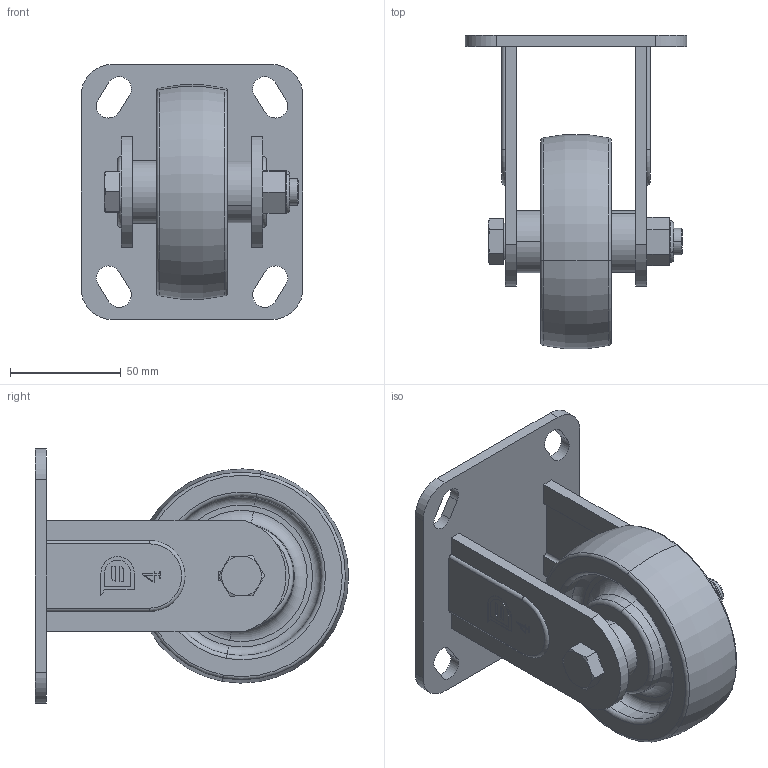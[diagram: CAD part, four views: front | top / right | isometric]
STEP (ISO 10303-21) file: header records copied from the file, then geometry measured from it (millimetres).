
FILE_DESCRIPTION (( 'STEP AP214' ), '1' );
FILE_NAME ('11240400071013.STEP', '2025-06-13T05:22:23', ( '' ), ( '' ), 'SwSTEP 2.0', 'SolidWorks 2024', '' );
FILE_SCHEMA (( 'AUTOMOTIVE_DESIGN' ));
Length unit declared in the file: millimetre
Products named in the file (7): 12______A_O_1_1; 11240400071013; 4''''''''''''''''(_100x32-02__-10L)____MRC___1; POM____F(__15x__12.3x15____28x8.75)___2; hexagon head bolts--product grade c gb_GB_FASTENER_BOLT_HHBC M12X80-N_1_1; 4DF固定架-5mm板; 11240400031013
Assembly tree (7 placements, depth 3):
  11240400071013
    11240400031013
      4DF固定架-5mm板
      12______A_O_1_1
      hexagon head bolts--product grade c gb_GB_FASTENER_BOLT_HHBC M12X80-N_1_1
    4''''''''''''''''(_100x32-02__-10L)____MRC___1
    POM____F(__15x__12.3x15____28x8.75)___2  x2
Bounding box: 100 x 141.3 x 115 mm (x, y, z)
Volume: 299616.9 mm3; surface area: 88408.3 mm2
Topology: 6 solids, 6 shells, 211 faces, 516 edges, 332 vertices
Faces by surface type: plane 107, cylinder 60, torus 28, cone 14, bspline 2
Entity records: 6580 total; most frequent: CARTESIAN_POINT 1306, DIRECTION 1112, ORIENTED_EDGE 1008, EDGE_CURVE 504, AXIS2_PLACEMENT_3D 410, VERTEX_POINT 324, LINE 292, VECTOR 292
